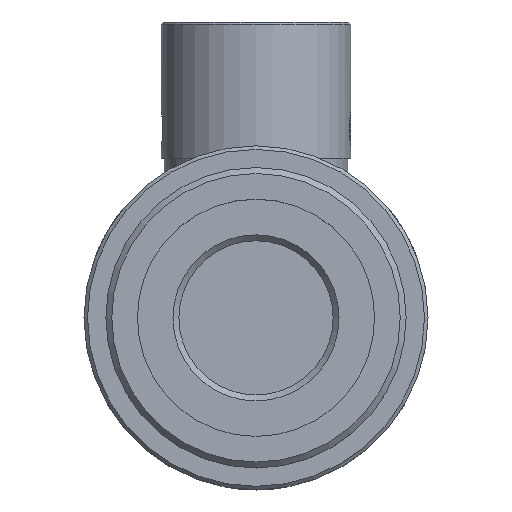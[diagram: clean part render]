
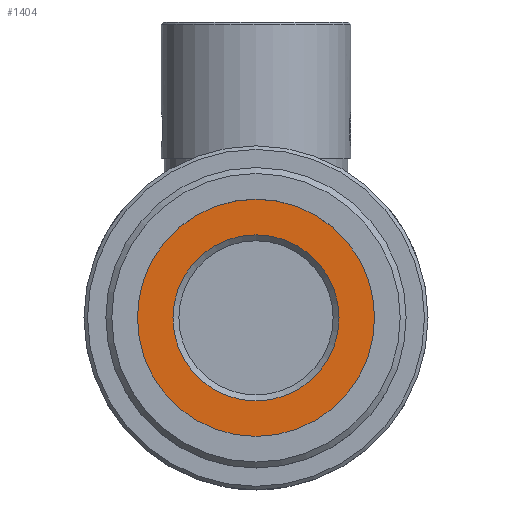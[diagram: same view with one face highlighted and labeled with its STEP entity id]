
A CAD part, top view. The second image highlights one B-rep face of the part: STEP entity #1404.
In plain terms, the highlighted planar face has unit normal (0, 0, 1).
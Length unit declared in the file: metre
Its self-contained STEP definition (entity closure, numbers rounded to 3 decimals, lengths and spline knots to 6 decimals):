
#1404=ADVANCED_FACE('0:6176',(#3494,#3495),#3496,.F.);
#2172=EDGE_CURVE('0:5395',#4611,#4611,#4612,.T.);
#2308=EDGE_CURVE('0:5374',#4785,#4785,#4786,.T.);
#3494=FACE_BOUND('',#6138,.T.);
#3495=FACE_OUTER_BOUND('',#6139,.T.);
#3496=PLANE('',#6140);
#4611=VERTEX_POINT('',#8137);
#4612=CIRCLE('',#8138,0.007);
#4785=VERTEX_POINT('',#8510);
#4786=CIRCLE('',#8511,0.01);
#6138=EDGE_LOOP('',(#11330));
#6139=EDGE_LOOP('',(#11331));
#6140=AXIS2_PLACEMENT_3D('',#11332,#11333,#11334);
#8137=CARTESIAN_POINT('',(0.005799,0.000153,0.044101));
#8138=AXIS2_PLACEMENT_3D('',#12108,#12109,#12110);
#8510=CARTESIAN_POINT('',(0.002799,0.000153,0.044101));
#8511=AXIS2_PLACEMENT_3D('',#12233,#12234,#12235);
#11330=ORIENTED_EDGE('',*,*,#2172,.F.);
#11331=ORIENTED_EDGE('',*,*,#2308,.F.);
#11332=CARTESIAN_POINT('',(0.012799,0.010153,0.044101));
#11333=DIRECTION('',(0.,0.0,-1.0));
#11334=DIRECTION('',(0.0,-1.0,0.0));
#12108=CARTESIAN_POINT('',(0.012799,0.000153,0.044101));
#12109=DIRECTION('',(0.,-0.0,1.0));
#12110=DIRECTION('',(-1.0,0.0,0.));
#12233=CARTESIAN_POINT('',(0.012799,0.000153,0.044101));
#12234=DIRECTION('',(0.,0.0,-1.0));
#12235=DIRECTION('',(-1.0,0.0,0.));
